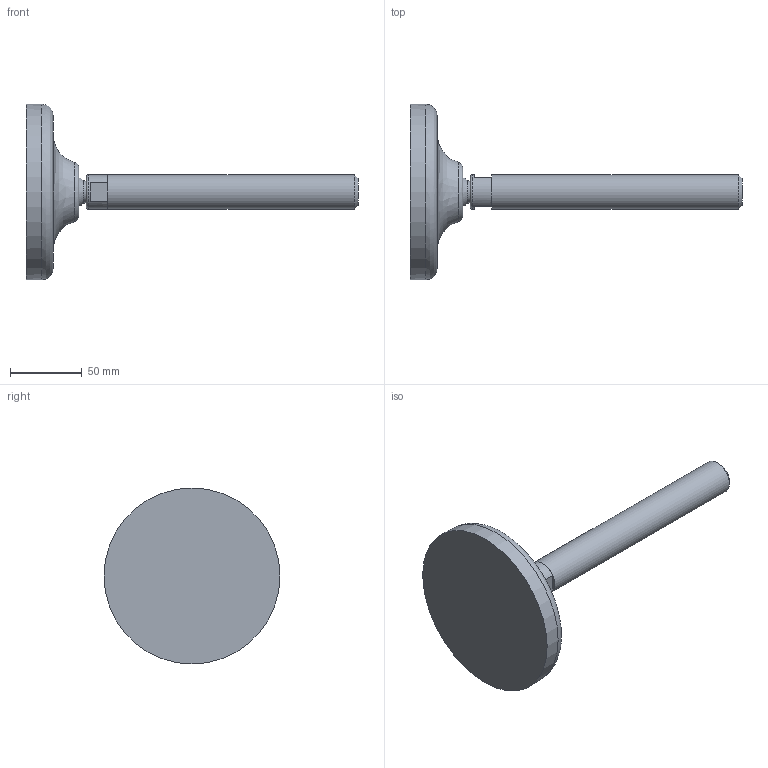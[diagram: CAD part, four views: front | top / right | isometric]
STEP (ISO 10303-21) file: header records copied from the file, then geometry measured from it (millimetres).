
FILE_DESCRIPTION(('STEP AP203'),'2;1');
FILE_NAME('10418.stp','2017-02-20T15:19:09',(''),(''),'2008.1.107','THINKDESIGN','');
FILE_SCHEMA(('CONFIG_CONTROL_DESIGN'));
Length unit declared in the file: millimetre
Bounding box: 232.03 x 123 x 123 mm (x, y, z)
Volume: 341238.3 mm3; surface area: 47707 mm2
Topology: 4 solids, 4 shells, 23 faces, 51 edges, 37 vertices
Faces by surface type: plane 13, bspline 7, cylinder 3
Full cylindrical faces by diameter (mm): 15.5 x1, 24 x2
Entity records: 1258 total; most frequent: CARTESIAN_POINT 633, DIRECTION 121, ORIENTED_EDGE 102, AXIS2_PLACEMENT_3D 54, EDGE_CURVE 51, CIRCLE 38, VERTEX_POINT 37, EDGE_LOOP 24
